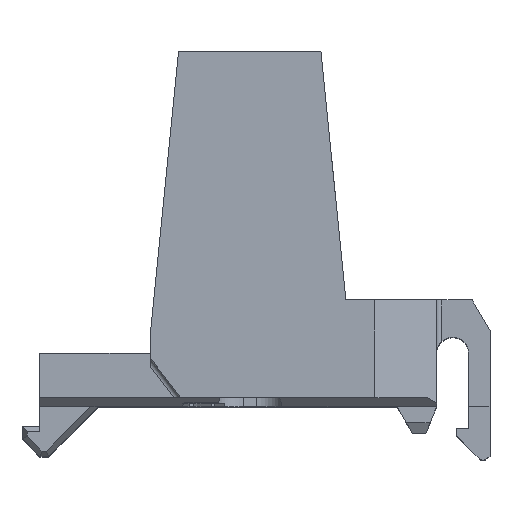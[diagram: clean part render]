
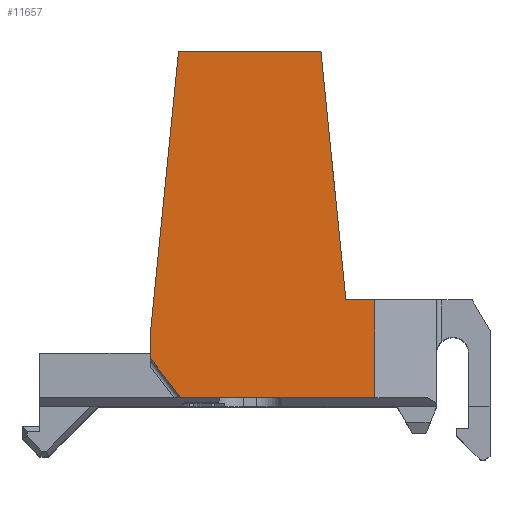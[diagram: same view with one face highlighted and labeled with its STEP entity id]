
A CAD part, top view. The second image highlights one B-rep face of the part: STEP entity #11657.
In plain terms, the highlighted planar face has unit normal (0, 0, 1).
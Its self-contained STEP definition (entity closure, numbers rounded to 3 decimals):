
#752=DIRECTION('',(-1.,0.,0.));
#753=VECTOR('',#752,1.637);
#754=CARTESIAN_POINT('',(7.036,6.,14.9));
#755=LINE('',#754,#753);
#3043=DIRECTION('',(-1.,0.,0.));
#3044=VECTOR('',#3043,8.);
#3045=CARTESIAN_POINT('',(4.,19.95,14.9));
#3046=LINE('',#3045,#3044);
#3204=DIRECTION('',(-0.1,-0.995,0.));
#3205=VECTOR('',#3204,16.04);
#3206=CARTESIAN_POINT('',(-4.,19.95,14.9));
#3207=LINE('',#3206,#3205);
#3212=DIRECTION('',(1.,0.,0.));
#3213=VECTOR('',#3212,10.92);
#3214=CARTESIAN_POINT('',(-3.884,0.5,14.9));
#3215=LINE('',#3214,#3213);
#3216=DIRECTION('',(0.609,-0.793,0.));
#3217=VECTOR('',#3216,2.819);
#3218=CARTESIAN_POINT('',(-5.6,2.737,14.9));
#3219=LINE('',#3218,#3217);
#3220=DIRECTION('',(0.,1.,0.));
#3221=VECTOR('',#3220,1.253);
#3222=CARTESIAN_POINT('',(-5.6,2.737,14.9));
#3223=LINE('',#3222,#3221);
#3224=DIRECTION('',(0.1,-0.995,0.));
#3225=VECTOR('',#3224,14.02);
#3226=CARTESIAN_POINT('',(4.,19.95,14.9));
#3227=LINE('',#3226,#3225);
#3228=DIRECTION('',(0.,-1.,0.));
#3229=VECTOR('',#3228,5.5);
#3230=CARTESIAN_POINT('',(7.036,6.,14.9));
#3231=LINE('',#3230,#3229);
#6236=CARTESIAN_POINT('',(4.,19.95,14.9));
#6238=VERTEX_POINT('',#6236);
#6239=CARTESIAN_POINT('',(-4.,19.95,14.9));
#6240=VERTEX_POINT('',#6239);
#6265=CARTESIAN_POINT('',(-5.6,3.99,14.9));
#6266=VERTEX_POINT('',#6265);
#6269=CARTESIAN_POINT('',(-5.6,2.737,14.9));
#6270=VERTEX_POINT('',#6269);
#6356=CARTESIAN_POINT('',(7.036,6.,14.9));
#6358=VERTEX_POINT('',#6356);
#6359=CARTESIAN_POINT('',(5.398,6.,14.9));
#6360=VERTEX_POINT('',#6359);
#6725=CARTESIAN_POINT('',(-3.884,0.5,14.9));
#6726=CARTESIAN_POINT('',(7.036,0.5,14.9));
#6727=VERTEX_POINT('',#6725);
#6728=VERTEX_POINT('',#6726);
#11638=CARTESIAN_POINT('',(-11.8,0.,14.9));
#11639=DIRECTION('',(0.,0.,1.));
#11640=DIRECTION('',(1.,0.,0.));
#11641=AXIS2_PLACEMENT_3D('',#11638,#11639,#11640);
#11642=PLANE('',#11641);
#11643=ORIENTED_EDGE('',*,*,#10010,.F.);
#11645=ORIENTED_EDGE('',*,*,#11644,.F.);
#11647=ORIENTED_EDGE('',*,*,#11646,.T.);
#11648=ORIENTED_EDGE('',*,*,#11629,.F.);
#11649=ORIENTED_EDGE('',*,*,#11414,.F.);
#11651=ORIENTED_EDGE('',*,*,#11650,.T.);
#11652=ORIENTED_EDGE('',*,*,#8965,.F.);
#11654=ORIENTED_EDGE('',*,*,#11653,.T.);
#11655=EDGE_LOOP('',(#11643,#11645,#11647,#11648,#11649,#11651,#11652,#11654));
#11656=FACE_OUTER_BOUND('',#11655,.F.);
#11657=ADVANCED_FACE('',(#11656),#11642,.T.);
#8965=EDGE_CURVE('',#6358,#6360,#755,.T.);
#10010=EDGE_CURVE('',#6727,#6728,#3215,.T.);
#11414=EDGE_CURVE('',#6238,#6240,#3046,.T.);
#11629=EDGE_CURVE('',#6240,#6266,#3207,.T.);
#11644=EDGE_CURVE('',#6270,#6727,#3219,.T.);
#11646=EDGE_CURVE('',#6270,#6266,#3223,.T.);
#11650=EDGE_CURVE('',#6238,#6360,#3227,.T.);
#11653=EDGE_CURVE('',#6358,#6728,#3231,.T.);
